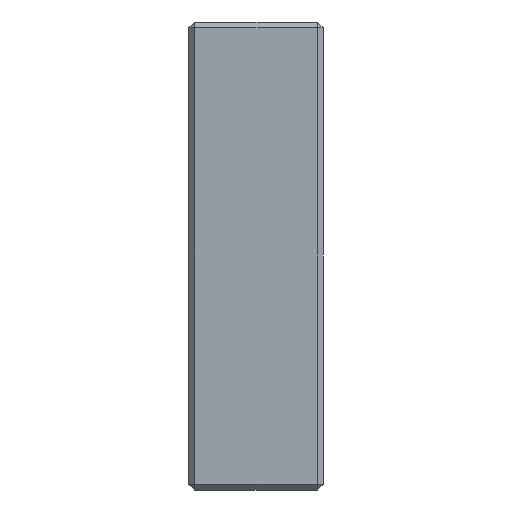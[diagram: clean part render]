
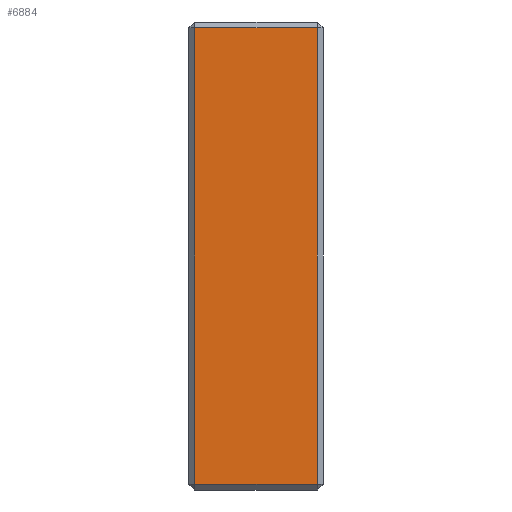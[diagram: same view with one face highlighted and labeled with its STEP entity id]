
A CAD part, left-side view. The second image highlights one B-rep face of the part: STEP entity #6884.
In plain terms, the highlighted planar face has unit normal (-1, 0, 0).
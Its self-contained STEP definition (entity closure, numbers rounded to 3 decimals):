
#34 = DIRECTION ( 'NONE',  ( 0., 0., -1. ) ) ;
#37 = EDGE_CURVE ( 'NONE', #5312, #740, #8112, .T. ) ;
#54 = CARTESIAN_POINT ( 'NONE',  ( 0., 5.25, -20. ) ) ;
#153 = CARTESIAN_POINT ( 'NONE',  ( 0., -5.25, -19.5 ) ) ;
#260 = DIRECTION ( 'NONE',  ( 0., 1., 0. ) ) ;
#581 = PLANE ( 'NONE',  #5186 ) ;
#740 = VERTEX_POINT ( 'NONE', #4450 ) ;
#829 = VECTOR ( 'NONE', #34, 1000. ) ;
#1358 = DIRECTION ( 'NONE',  ( 0., 0., 1. ) ) ;
#1393 = DIRECTION ( 'NONE',  ( 0., -1., 0. ) ) ;
#2012 = VERTEX_POINT ( 'NONE', #153 ) ;
#2022 = EDGE_CURVE ( 'NONE', #740, #3354, #4942, .T. ) ;
#2867 = CARTESIAN_POINT ( 'NONE',  ( 0., 5.75, -20. ) ) ;
#3345 = FACE_OUTER_BOUND ( 'NONE', #7402, .T. ) ;
#3354 = VERTEX_POINT ( 'NONE', #4742 ) ;
#3843 = VECTOR ( 'NONE', #1393, 1000. ) ;
#4243 = VECTOR ( 'NONE', #260, 1000. ) ;
#4450 = CARTESIAN_POINT ( 'NONE',  ( 0., 5.25, 19.5 ) ) ;
#4665 = ORIENTED_EDGE ( 'NONE', *, *, #37, .T. ) ;
#4742 = CARTESIAN_POINT ( 'NONE',  ( 0., 5.25, -19.5 ) ) ;
#4878 = ORIENTED_EDGE ( 'NONE', *, *, #8320, .T. ) ;
#4942 = LINE ( 'NONE', #54, #829 ) ;
#5186 = AXIS2_PLACEMENT_3D ( 'NONE', #2867, #6021, #1358 ) ;
#5297 = EDGE_CURVE ( 'NONE', #3354, #2012, #5920, .T. ) ;
#5312 = VERTEX_POINT ( 'NONE', #6820 ) ;
#5920 = LINE ( 'NONE', #6048, #3843 ) ;
#6021 = DIRECTION ( 'NONE',  ( -1., 0., 0. ) ) ;
#6048 = CARTESIAN_POINT ( 'NONE',  ( 0., -5.75, -19.5 ) ) ;
#6475 = ORIENTED_EDGE ( 'NONE', *, *, #2022, .T. ) ;
#6820 = CARTESIAN_POINT ( 'NONE',  ( 0., -5.25, 19.5 ) ) ;
#6884 = ADVANCED_FACE ( 'NONE', ( #3345 ), #581, .T. ) ;
#7100 = VECTOR ( 'NONE', #8412, 1000. ) ;
#7334 = LINE ( 'NONE', #7626, #7100 ) ;
#7402 = EDGE_LOOP ( 'NONE', ( #6475, #9352, #4878, #4665 ) ) ;
#7459 = CARTESIAN_POINT ( 'NONE',  ( 0., 5.75, 19.5 ) ) ;
#7626 = CARTESIAN_POINT ( 'NONE',  ( 0., -5.25, 20. ) ) ;
#8112 = LINE ( 'NONE', #7459, #4243 ) ;
#8320 = EDGE_CURVE ( 'NONE', #2012, #5312, #7334, .T. ) ;
#8412 = DIRECTION ( 'NONE',  ( 0., 0., 1. ) ) ;
#9352 = ORIENTED_EDGE ( 'NONE', *, *, #5297, .T. ) ;
